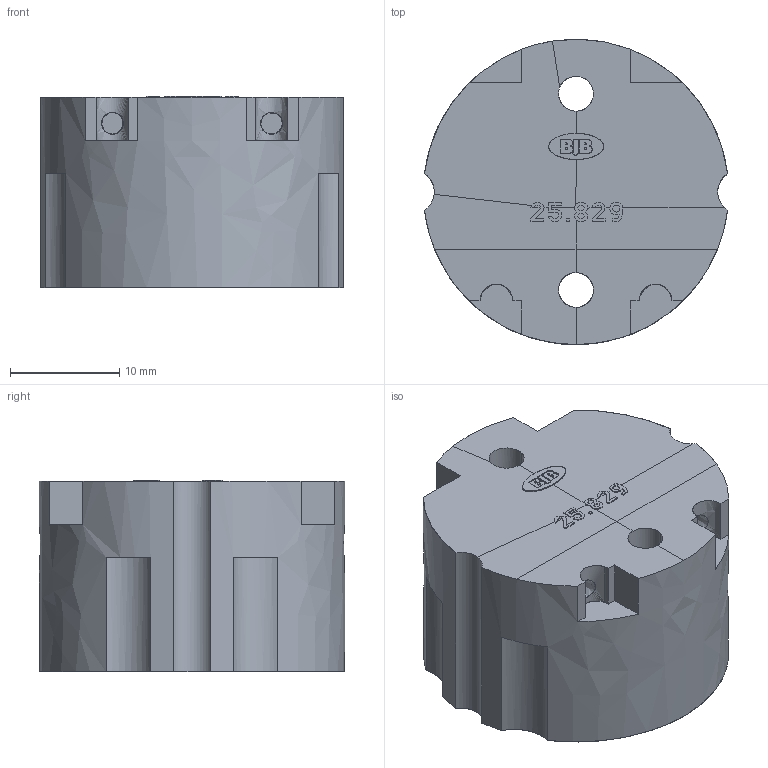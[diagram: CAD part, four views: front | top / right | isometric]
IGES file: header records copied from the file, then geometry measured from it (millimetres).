
Start section: Surface Model. Bezier boundary curves.
Global section: file name: 00UYE00Z01.igs; native system: TRANS-3D by CORETECH International; preprocessor: 2.1; date: 020429.072232; units: millimetre
Bounding box: 27.8 x 28 x 17.6 mm (x, y, z)
Surface area: 3943.7 mm2 (no closed solid volume)
Topology: 0 solids, 0 shells, 312 faces, 1937 edges, 1937 vertices
Faces by surface type: bspline 312
